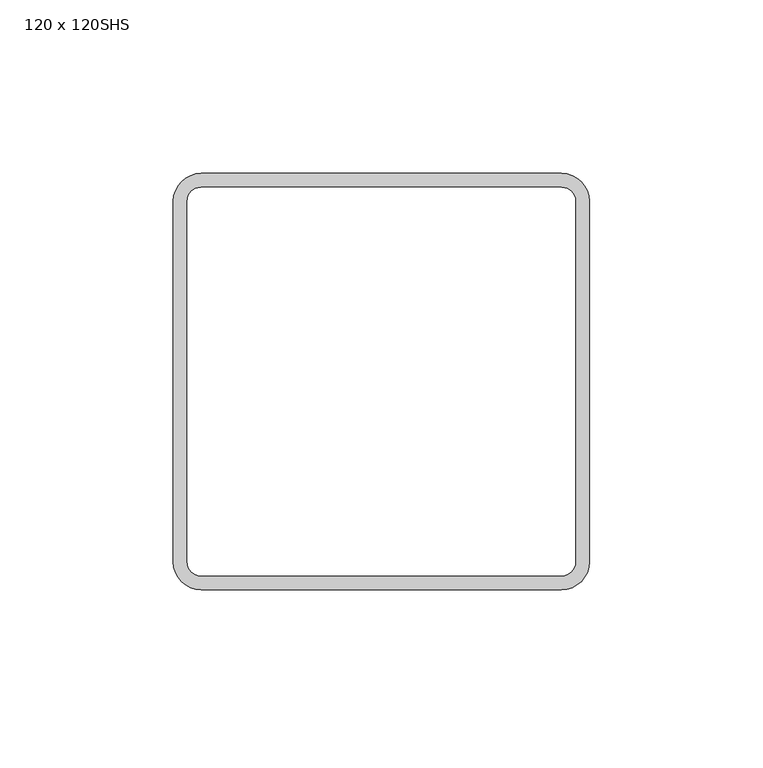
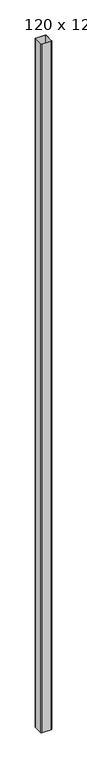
"""IFC4 building model written with IfcOpenShell, lengths in millimetres: column geometry, SHS-Sección hueca cuadrada-Pilar : 120 x 120SHS."""

from ifc_helpers import new_model, si_unit, point, frame, frame_2d, origin, place, context, project, spatial, polyline, circle_curve, trimmed, segment, composite_curve, outline, extrude, source, transform, mapped, element, save


def column_120_x_120shs_173fb2dc(model_context):
    return source(origin(), model_context, "Body", "SweptSolid", [
        extrude(outline(composite_curve([segment(trimmed(circle_curve(frame_2d((52.0, 52.0)), 8.0), [point((52.0, 60.0))], [point((60.0, 52.0))], False, "CARTESIAN"), True, "CONTINUOUS"), segment(polyline([(60.0, 52.0), (60.0, -52.0)]), True, "CONTINUOUS"), segment(trimmed(circle_curve(frame_2d((52.0, -52.0)), 8.0), [point((60.0, -52.0))], [point((52.0, -60.0))], False, "CARTESIAN"), True, "CONTINUOUS"), segment(polyline([(52.0, -60.0), (-52.0, -60.0)]), True, "CONTINUOUS"), segment(trimmed(circle_curve(frame_2d((-52.0, -52.0)), 8.0), [point((-52.0, -60.0))], [point((-60.0, -52.0))], False, "CARTESIAN"), True, "CONTINUOUS"), segment(polyline([(-60.0, -52.0), (-60.0, 52.0)]), True, "CONTINUOUS"), segment(trimmed(circle_curve(frame_2d((-52.0, 52.0)), 8.0), [point((-60.0, 52.0))], [point((-52.0, 60.0))], False, "CARTESIAN"), True, "CONTINUOUS"), segment(polyline([(-52.0, 60.0), (52.0, 60.0)]), True, "CONTINUOUS")], self_intersect=False), holes=[composite_curve([segment(polyline([(52.0, 56.0), (-52.0, 56.0)]), True, "CONTINUOUS"), segment(trimmed(circle_curve(frame_2d((-52.0, 52.0)), 4.0), [point((-52.0, 56.0))], [point((-56.0, 52.0))], True, "CARTESIAN"), True, "CONTINUOUS"), segment(polyline([(-56.0, 52.0), (-56.0, -52.0)]), True, "CONTINUOUS"), segment(trimmed(circle_curve(frame_2d((-52.0, -52.0)), 4.0), [point((-56.0, -52.0))], [point((-52.0, -56.0))], True, "CARTESIAN"), True, "CONTINUOUS"), segment(polyline([(-52.0, -56.0), (52.0, -56.0)]), True, "CONTINUOUS"), segment(trimmed(circle_curve(frame_2d((52.0, -52.0)), 4.0), [point((52.0, -56.0))], [point((56.0, -52.0))], True, "CARTESIAN"), True, "CONTINUOUS"), segment(polyline([(56.0, -52.0), (56.0, 52.0)]), True, "CONTINUOUS"), segment(trimmed(circle_curve(frame_2d((52.0, 52.0)), 4.0), [point((56.0, 52.0))], [point((52.0, 56.0))], True, "CARTESIAN"), True, "CONTINUOUS")], self_intersect=False)]), frame((0.0, 0.0, 4940.0), z_axis=(0.0, 0.0, 1.0), x_axis=(1.0, 0.0, 0.0)), (0.0, 0.0, 1.0), 8130.0),
    ])


if __name__ == "__main__":
    model = new_model("IFC4")
    model_context = context("Model", 3, world=origin())
    ifc_project = project(units=[si_unit("LENGTHUNIT", "METRE", prefix="MILLI")], contexts=[model_context])
    site = spatial("IfcSite", under=ifc_project)
    building = spatial("IfcBuilding", under=site)
    placement = place(None, origin())
    column_120_x_120shs_shape = column_120_x_120shs_173fb2dc(model_context)
    element("IfcColumn", 1, ObjectType="SHS-Sección hueca cuadrada-Pilar : 120 x 120SHS", at=placement, inside=building, context=model_context, shape_type="MappedRepresentation", body=[
        mapped(column_120_x_120shs_shape, transform((0.0, 0.0, 0.0), x_axis=(1.0, 0.0, 0.0), y_axis=(0.0, 1.0, 0.0), z_axis=(0.0, 0.0, 1.0))),
    ])
    save(model, "model.ifc")
